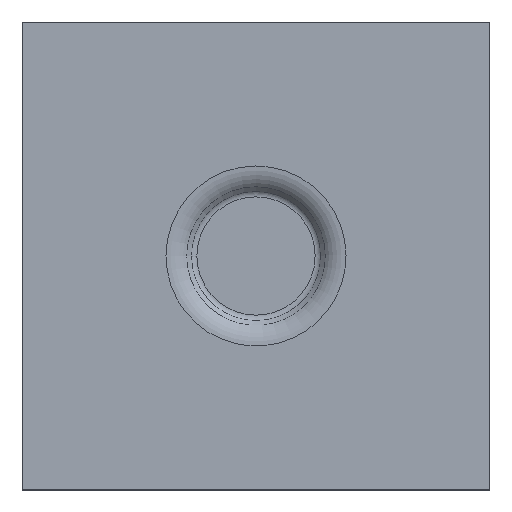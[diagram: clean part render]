
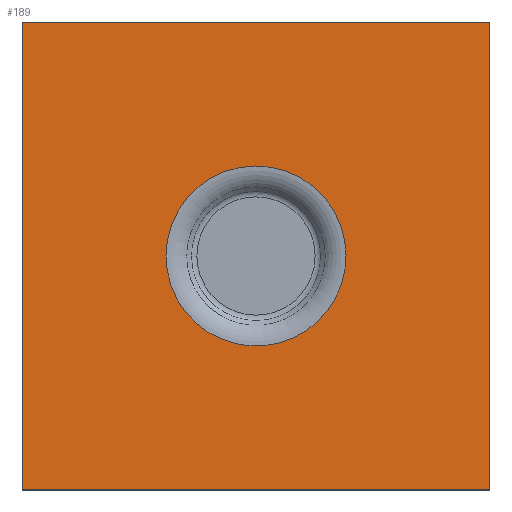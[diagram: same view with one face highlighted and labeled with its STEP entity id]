
A CAD part, top view. The second image highlights one B-rep face of the part: STEP entity #189.
In plain terms, the highlighted planar face has unit normal (0, 0, 1).
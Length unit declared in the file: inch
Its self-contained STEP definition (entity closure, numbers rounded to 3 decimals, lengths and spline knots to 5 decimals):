
#80=CARTESIAN_POINT('',(-6.3,5.7675,2.3025));
#81=VERTEX_POINT('',#80);
#88=CARTESIAN_POINT('',(-6.3,7.2675,2.3025));
#89=VERTEX_POINT('',#88);
#90=CARTESIAN_POINT('',(-6.3,-897.10123,2.3025));
#91=DIRECTION('',(0.,1.,0.));
#92=VECTOR('',#91,1.);
#93=LINE('',#90,#92);
#94=EDGE_CURVE('',#81,#89,#93,.T.);
#110=CARTESIAN_POINT('',(-4.8,7.2675,2.3025));
#111=VERTEX_POINT('',#110);
#112=CARTESIAN_POINT('',(-980.15683,7.2675,2.3025));
#113=DIRECTION('',(1.,0.,0.));
#114=VECTOR('',#113,1.);
#115=LINE('',#112,#114);
#116=EDGE_CURVE('',#89,#111,#115,.T.);
#135=CARTESIAN_POINT('',(-4.8,5.7675,2.3025));
#136=VERTEX_POINT('',#135);
#137=CARTESIAN_POINT('',(-4.8,6285.96634,2.3025));
#138=DIRECTION('',(0.,-1.,0.));
#139=VECTOR('',#138,1.);
#140=LINE('',#137,#139);
#141=EDGE_CURVE('',#111,#136,#140,.T.);
#158=CARTESIAN_POINT('',(-2.6175,5.7675,2.3025));
#159=DIRECTION('',(-1.,0.,0.));
#160=VECTOR('',#159,1.);
#161=LINE('',#158,#160);
#162=EDGE_CURVE('',#136,#81,#161,.T.);
#163=ORIENTED_EDGE('',*,*,#162,.F.);
#164=ORIENTED_EDGE('',*,*,#141,.F.);
#165=ORIENTED_EDGE('',*,*,#116,.F.);
#166=ORIENTED_EDGE('',*,*,#94,.F.);
#167=EDGE_LOOP('',(#163,#164,#165,#166));
#168=FACE_OUTER_BOUND('',#167,.T.);
#169=CARTESIAN_POINT('',(-5.83852,6.5175,2.3025));
#170=VERTEX_POINT('',#169);
#171=CARTESIAN_POINT('',(-5.26149,6.51994,2.3025));
#172=VERTEX_POINT('',#171);
#173=CARTESIAN_POINT('',(-5.55,6.5175,2.3025));
#174=DIRECTION('',(0.,0.,1.));
#175=DIRECTION('',(-1.,0.,0.));
#176=AXIS2_PLACEMENT_3D('',#173,#174,#175);
#177=CIRCLE('',#176,0.28852);
#178=EDGE_CURVE('',#170,#172,#177,.T.);
#179=ORIENTED_EDGE('',*,*,#178,.F.);
#180=EDGE_CURVE('',#172,#170,#177,.T.);
#181=ORIENTED_EDGE('',*,*,#180,.F.);
#182=EDGE_LOOP('',(#179,#181));
#183=FACE_BOUND('',#182,.T.);
#184=CARTESIAN_POINT('',(0.,5.7475,2.3025));
#185=DIRECTION('',(0.,0.,1.));
#186=DIRECTION('',(1.,0.,0.));
#187=AXIS2_PLACEMENT_3D('',#184,#185,#186);
#188=PLANE('',#187);
#189=ADVANCED_FACE('',(#168,#183),#188,.T.);
